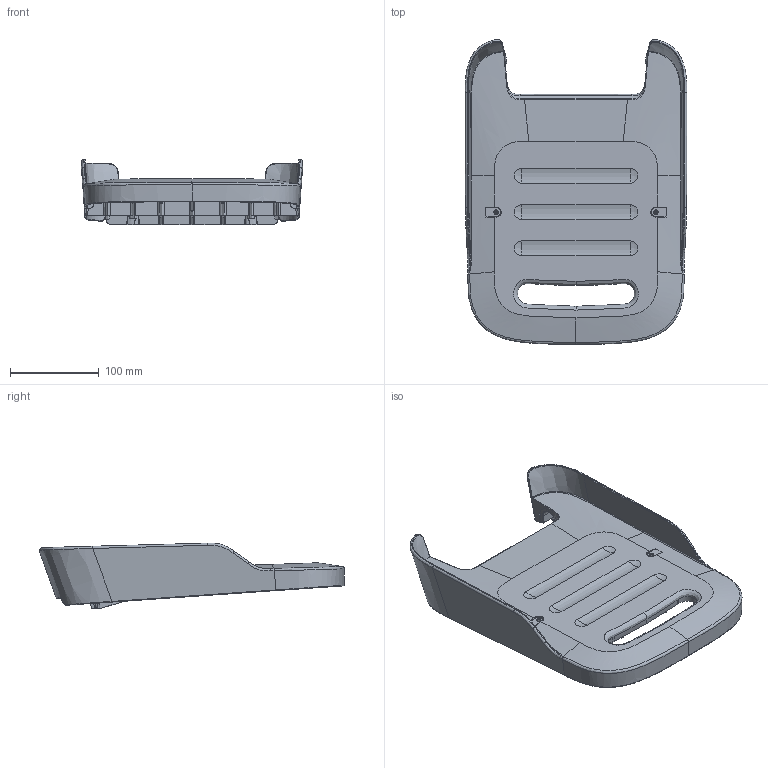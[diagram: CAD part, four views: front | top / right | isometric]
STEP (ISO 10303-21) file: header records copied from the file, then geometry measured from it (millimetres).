
FILE_DESCRIPTION((''),'2;1');
FILE_NAME('YC_JS_ZZ001433_03','2026-03-19T10:09:46',('teemo.wang'),(''),'CREO PARAMETRIC BY PTC INC, 2022164','CREO PARAMETRIC BY PTC INC, 2022164','');
FILE_SCHEMA(('AUTOMOTIVE_DESIGN { 1 0 10303 214 1 1 1 1 }'));
Products named in the file (1): YC_JS_ZZ001433_03
Bounding box: 249.64 x 343.11 x 74.09 mm (x, y, z)
Volume: 484126 mm3; surface area: 322222.5 mm2
Topology: 1 solids, 1 shells, 1415 faces, 3495 edges, 2085 vertices
Faces by surface type: bspline 730, plane 259, cylinder 259, cone 86, extrusion 47, sphere 34
Entity records: 90539 total; most frequent: CARTESIAN_POINT 63215, ORIENTED_EDGE 6950, DIRECTION 3715, EDGE_CURVE 3475, VERTEX_POINT 2085, B_SPLINE_CURVE_WITH_KNOTS 1857, EDGE_LOOP 1440, FACE_OUTER_BOUND 1415
